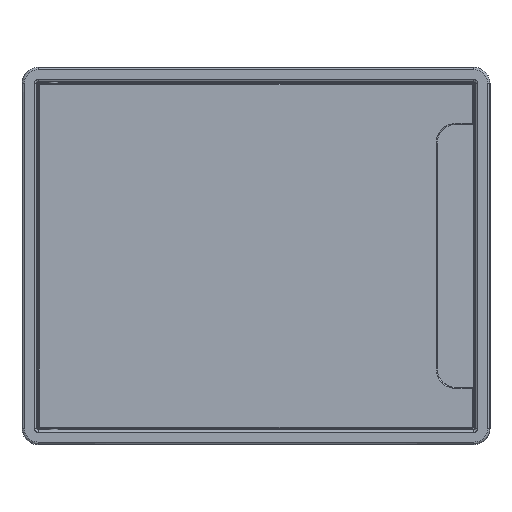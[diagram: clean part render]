
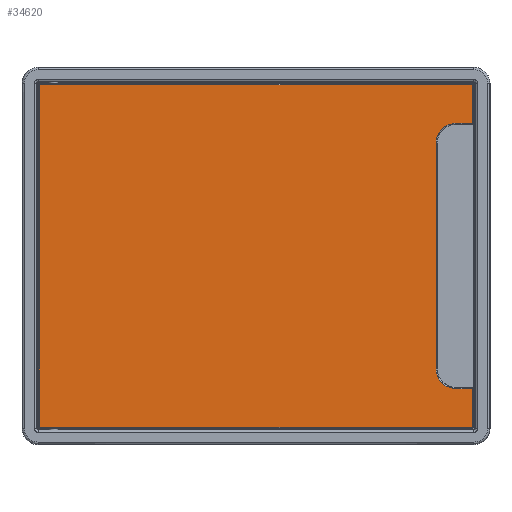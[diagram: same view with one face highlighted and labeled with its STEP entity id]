
A CAD part, top view. The second image highlights one B-rep face of the part: STEP entity #34620.
In plain terms, the highlighted planar face has unit normal (0, 0, 1).
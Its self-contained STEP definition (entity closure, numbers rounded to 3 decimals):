
#284 = CARTESIAN_POINT ( 'NONE',  ( 84.599, -148., 0. ) ) ;
#1186 = CARTESIAN_POINT ( 'NONE',  ( 128.835, -82.054, 0. ) ) ;
#3159 = ORIENTED_EDGE ( 'NONE', *, *, #34492, .T. ) ;
#3404 = DIRECTION ( 'NONE',  ( 1., 0., 0. ) ) ;
#3760 = ORIENTED_EDGE ( 'NONE', *, *, #55932, .T. ) ;
#4734 = CARTESIAN_POINT ( 'NONE',  ( -79.261, 82.054, 0. ) ) ;
#5229 = CARTESIAN_POINT ( 'NONE',  ( 128.835, -148., 0. ) ) ;
#5329 =( BOUNDED_CURVE ( )  B_SPLINE_CURVE ( 3, ( #65296, #77669, #33932, #76464 ),
 .UNSPECIFIED., .F., .T. ) 
 B_SPLINE_CURVE_WITH_KNOTS ( ( 4, 4 ),
 ( 2.361, 3.923 ),
 .UNSPECIFIED. ) 
 CURVE ( )  GEOMETRIC_REPRESENTATION_ITEM ( )  RATIONAL_B_SPLINE_CURVE ( ( 1., 0.807, 0.807, 1. ) ) 
 REPRESENTATION_ITEM ( '' )  );
#5791 = CARTESIAN_POINT ( 'NONE',  ( 111.421, 54.099, 0. ) ) ;
#6056 = DIRECTION ( 'NONE',  ( -1., 0., 0. ) ) ;
#6536 = LINE ( 'NONE', #13953, #39990 ) ;
#6786 = ORIENTED_EDGE ( 'NONE', *, *, #28728, .T. ) ;
#8044 = VERTEX_POINT ( 'NONE', #79464 ) ;
#9249 = VERTEX_POINT ( 'NONE', #1186 ) ;
#12316 = ORIENTED_EDGE ( 'NONE', *, *, #73664, .T. ) ;
#12610 = DIRECTION ( 'NONE',  ( 0., -1., 0. ) ) ;
#13953 = CARTESIAN_POINT ( 'NONE',  ( 128.835, -148., 0. ) ) ;
#13997 = ORIENTED_EDGE ( 'NONE', *, *, #15338, .T. ) ;
#14141 = ORIENTED_EDGE ( 'NONE', *, *, #56843, .T. ) ;
#14526 = ORIENTED_EDGE ( 'NONE', *, *, #41142, .T. ) ;
#15338 = EDGE_CURVE ( 'NONE', #37545, #41951, #6536, .T. ) ;
#16147 = DIRECTION ( 'NONE',  ( 1., 0.009, 0. ) ) ;
#16772 = EDGE_CURVE ( 'NONE', #47373, #9249, #54128, .T. ) ;
#17109 = CARTESIAN_POINT ( 'NONE',  ( 128.835, -63.664, 0. ) ) ;
#21622 = LINE ( 'NONE', #28234, #74262 ) ;
#22977 = CARTESIAN_POINT ( 'NONE',  ( 115.312, 63.547, 0. ) ) ;
#23222 = VERTEX_POINT ( 'NONE', #17109 ) ;
#25066 = PLANE ( 'NONE',  #51142 ) ;
#25159 = CARTESIAN_POINT ( 'NONE',  ( 120.834, -63.594, 0. ) ) ;
#25218 = LINE ( 'NONE', #5791, #53828 ) ;
#25881 = FACE_OUTER_BOUND ( 'NONE', #78344, .T. ) ;
#26200 = CARTESIAN_POINT ( 'NONE',  ( 120.839, 63.594, 0. ) ) ;
#28234 = CARTESIAN_POINT ( 'NONE',  ( 128.835, -148., 0. ) ) ;
#28728 = EDGE_CURVE ( 'NONE', #66710, #31682, #32108, .T. ) ;
#29076 = VECTOR ( 'NONE', #3404, 1000. ) ;
#29300 = CARTESIAN_POINT ( 'NONE',  ( 128.835, 63.664, 0. ) ) ;
#29584 = ORIENTED_EDGE ( 'NONE', *, *, #36470, .T. ) ;
#29605 = DIRECTION ( 'NONE',  ( 0., 1., 0. ) ) ;
#30407 = LINE ( 'NONE', #42000, #51451 ) ;
#30547 = VERTEX_POINT ( 'NONE', #29300 ) ;
#30645 = EDGE_CURVE ( 'NONE', #23222, #71142, #30912, .T. ) ;
#30774 = ORIENTED_EDGE ( 'NONE', *, *, #16772, .T. ) ;
#30912 = LINE ( 'NONE', #25159, #63150 ) ;
#31342 = DIRECTION ( 'NONE',  ( -1., 0.009, 0. ) ) ;
#31682 = VERTEX_POINT ( 'NONE', #26200 ) ;
#32108 =( BOUNDED_CURVE ( )  B_SPLINE_CURVE ( 3, ( #61730, #80306, #22977, #67508 ),
 .UNSPECIFIED., .F., .T. ) 
 B_SPLINE_CURVE_WITH_KNOTS ( ( 4, 4 ),
 ( 2.361, 3.923 ),
 .UNSPECIFIED. ) 
 CURVE ( )  GEOMETRIC_REPRESENTATION_ITEM ( )  RATIONAL_B_SPLINE_CURVE ( ( 1., 0.807, 0.807, 1. ) ) 
 REPRESENTATION_ITEM ( '' )  );
#32620 = CARTESIAN_POINT ( 'NONE',  ( 128.835, 81.95, 0. ) ) ;
#32694 = CARTESIAN_POINT ( 'NONE',  ( 120.839, -63.594, 0. ) ) ;
#33932 = CARTESIAN_POINT ( 'NONE',  ( 111.421, -59.622, 0. ) ) ;
#33976 = VECTOR ( 'NONE', #73333, 1000. ) ;
#34492 = EDGE_CURVE ( 'NONE', #30547, #37545, #61348, .T. ) ;
#34620 = ADVANCED_FACE ( 'NONE', ( #25881 ), #25066, .T. ) ;
#34739 = CARTESIAN_POINT ( 'NONE',  ( 129.33, -82.054, 0. ) ) ;
#35914 = CARTESIAN_POINT ( 'NONE',  ( 128.83, 63.663, 0. ) ) ;
#36470 = EDGE_CURVE ( 'NONE', #8044, #66710, #25218, .T. ) ;
#37545 = VERTEX_POINT ( 'NONE', #32620 ) ;
#39990 = VECTOR ( 'NONE', #44089, 1000. ) ;
#40719 = VERTEX_POINT ( 'NONE', #61763 ) ;
#41142 = EDGE_CURVE ( 'NONE', #41951, #43377, #81066, .T. ) ;
#41917 = DIRECTION ( 'NONE',  ( -1., 0., 0. ) ) ;
#41951 = VERTEX_POINT ( 'NONE', #70355 ) ;
#42000 = CARTESIAN_POINT ( 'NONE',  ( 128.835, -148., 0. ) ) ;
#42338 = LINE ( 'NONE', #67469, #52992 ) ;
#42364 = EDGE_CURVE ( 'NONE', #71142, #8044, #5329, .T. ) ;
#43377 = VERTEX_POINT ( 'NONE', #50721 ) ;
#44089 = DIRECTION ( 'NONE',  ( 0., 1., 0. ) ) ;
#47373 = VERTEX_POINT ( 'NONE', #58819 ) ;
#47993 = ORIENTED_EDGE ( 'NONE', *, *, #65455, .T. ) ;
#50386 = DIRECTION ( 'NONE',  ( 0., 1., 0. ) ) ;
#50721 = CARTESIAN_POINT ( 'NONE',  ( -78.766, 82.054, 0. ) ) ;
#51142 = AXIS2_PLACEMENT_3D ( 'NONE', #284, #69587, #6056 ) ;
#51451 = VECTOR ( 'NONE', #29605, 1000. ) ;
#52223 = VECTOR ( 'NONE', #16147, 1000. ) ;
#52992 = VECTOR ( 'NONE', #12610, 1000. ) ;
#53828 = VECTOR ( 'NONE', #50386, 1000. ) ;
#54128 = LINE ( 'NONE', #34739, #29076 ) ;
#55268 = ORIENTED_EDGE ( 'NONE', *, *, #42364, .T. ) ;
#55932 = EDGE_CURVE ( 'NONE', #40719, #23222, #30407, .T. ) ;
#56843 = EDGE_CURVE ( 'NONE', #31682, #30547, #79652, .T. ) ;
#58819 = CARTESIAN_POINT ( 'NONE',  ( -78.766, -82.054, 0. ) ) ;
#61348 = LINE ( 'NONE', #5229, #33976 ) ;
#61730 = CARTESIAN_POINT ( 'NONE',  ( 111.421, 54.095, 0. ) ) ;
#61763 = CARTESIAN_POINT ( 'NONE',  ( 128.835, -81.95, 0. ) ) ;
#63150 = VECTOR ( 'NONE', #31342, 1000. ) ;
#65296 = CARTESIAN_POINT ( 'NONE',  ( 120.839, -63.594, 0. ) ) ;
#65455 = EDGE_CURVE ( 'NONE', #9249, #40719, #21622, .T. ) ;
#66570 = DIRECTION ( 'NONE',  ( 0., 1., 0. ) ) ;
#66710 = VERTEX_POINT ( 'NONE', #72675 ) ;
#67469 = CARTESIAN_POINT ( 'NONE',  ( -78.766, -82.55, 0. ) ) ;
#67508 = CARTESIAN_POINT ( 'NONE',  ( 120.839, 63.594, 0. ) ) ;
#69587 = DIRECTION ( 'NONE',  ( 0., 0., 1. ) ) ;
#70355 = CARTESIAN_POINT ( 'NONE',  ( 128.835, 82.054, 0. ) ) ;
#71142 = VERTEX_POINT ( 'NONE', #32694 ) ;
#72675 = CARTESIAN_POINT ( 'NONE',  ( 111.421, 54.095, 0. ) ) ;
#73333 = DIRECTION ( 'NONE',  ( 0., 1., 0. ) ) ;
#73664 = EDGE_CURVE ( 'NONE', #43377, #47373, #42338, .T. ) ;
#74262 = VECTOR ( 'NONE', #66570, 1000. ) ;
#74573 = VECTOR ( 'NONE', #41917, 1000. ) ;
#76413 = ORIENTED_EDGE ( 'NONE', *, *, #30645, .T. ) ;
#76464 = CARTESIAN_POINT ( 'NONE',  ( 111.421, -54.095, 0. ) ) ;
#77669 = CARTESIAN_POINT ( 'NONE',  ( 115.312, -63.547, 0. ) ) ;
#78344 = EDGE_LOOP ( 'NONE', ( #30774, #47993, #3760, #76413, #55268, #29584, #6786, #14141, #3159, #13997, #14526, #12316 ) ) ;
#79464 = CARTESIAN_POINT ( 'NONE',  ( 111.421, -54.095, 0. ) ) ;
#79652 = LINE ( 'NONE', #35914, #52223 ) ;
#80306 = CARTESIAN_POINT ( 'NONE',  ( 111.421, 59.622, 0. ) ) ;
#81066 = LINE ( 'NONE', #4734, #74573 ) ;
